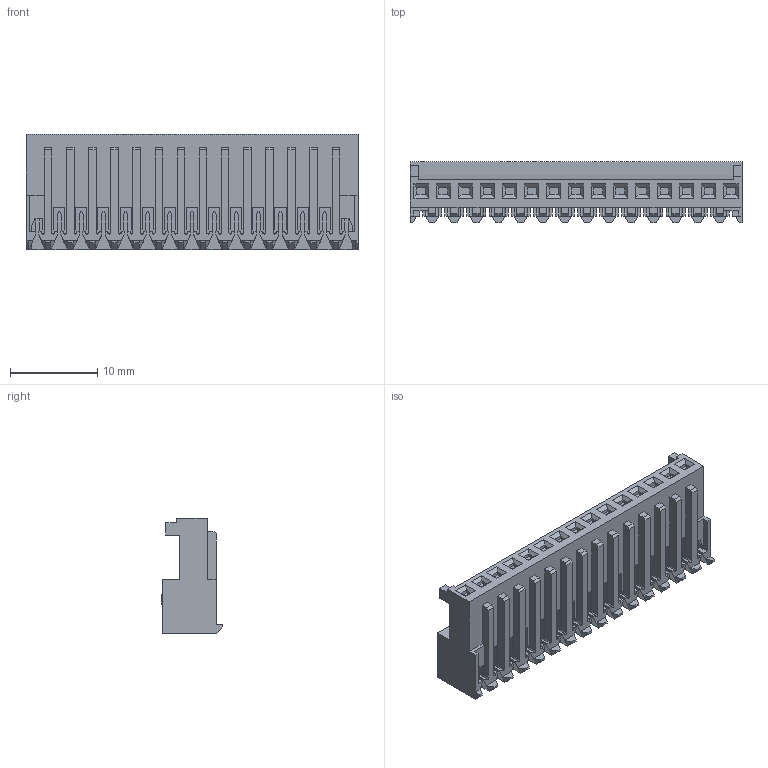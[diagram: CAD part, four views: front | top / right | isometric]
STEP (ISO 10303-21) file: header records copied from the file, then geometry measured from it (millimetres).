
FILE_DESCRIPTION((''),'2;1');
FILE_NAME('C-1-644038-5','2016-10-18T',('workeradm'),('Tyco Electronics Ltd.'),'CREO PARAMETRIC BY PTC INC, 2016050','CREO PARAMETRIC BY PTC INC, 2016050','');
FILE_SCHEMA(('AUTOMOTIVE_DESIGN { 1 0 10303 214 1 1 1 1 }'));
Length unit declared in the file: millimetre
Products named in the file (1): C-1-644038-5
Bounding box: 38.1 x 7.09 x 13.21 mm (x, y, z)
Volume: 1689.8 mm3; surface area: 3343.6 mm2
Topology: 1 solids, 1 shells, 1373 faces, 3919 edges, 2534 vertices
Faces by surface type: plane 1285, cylinder 88
Entity records: 43937 total; most frequent: ORIENTED_EDGE 7838, CARTESIAN_POINT 7828, DIRECTION 6841, EDGE_CURVE 3919, VECTOR 3743, LINE 3743, VERTEX_POINT 2534, AXIS2_PLACEMENT_3D 1549
